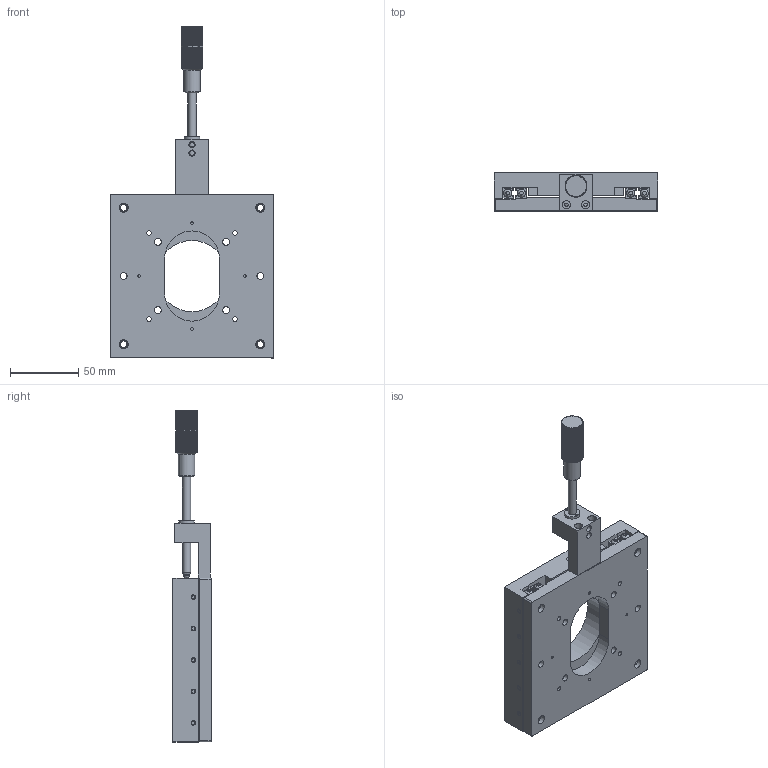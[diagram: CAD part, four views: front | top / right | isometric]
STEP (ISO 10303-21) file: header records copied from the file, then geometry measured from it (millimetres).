
FILE_DESCRIPTION (( 'STEP AP203' ), '1' );
FILE_NAME ('TCS120HX-2A.step', '2017-01-10T09:15:56', ( '¦K¬P' ), ( '' ), 'SwSTEP 2.0', 'SolidWorks 2012', '' );
FILE_SCHEMA (( 'CONFIG_CONTROL_DESIGN' ));
Length unit declared in the file: millimetre
Products named in the file (1): TCS120HX-2A
Bounding box: 120 x 28 x 243 mm (x, y, z)
Surface area: 92574.4 mm2 (no closed solid volume)
Topology: 0 solids, 30 shells, 447 faces, 1328 edges, 905 vertices
Faces by surface type: plane 286, cylinder 137, cone 14, torus 9, sphere 1
Full cylindrical faces by diameter (mm): 1.7 x2, 2 x8, 2.5 x5, 3 x1, 3.3 x19, 4.5 x2, 5 x25, 6 x3, 6.5 x4, 9.5 x1, 11 x4, 11.5 x1, 12 x1, 52 x1
Entity records: 15438 total; most frequent: CARTESIAN_POINT 3865, ORIENTED_EDGE 2252, DIRECTION 2188, EDGE_CURVE 1218, VERTEX_POINT 897, AXIS2_PLACEMENT_3D 790, EDGE_LOOP 699, LINE 608
